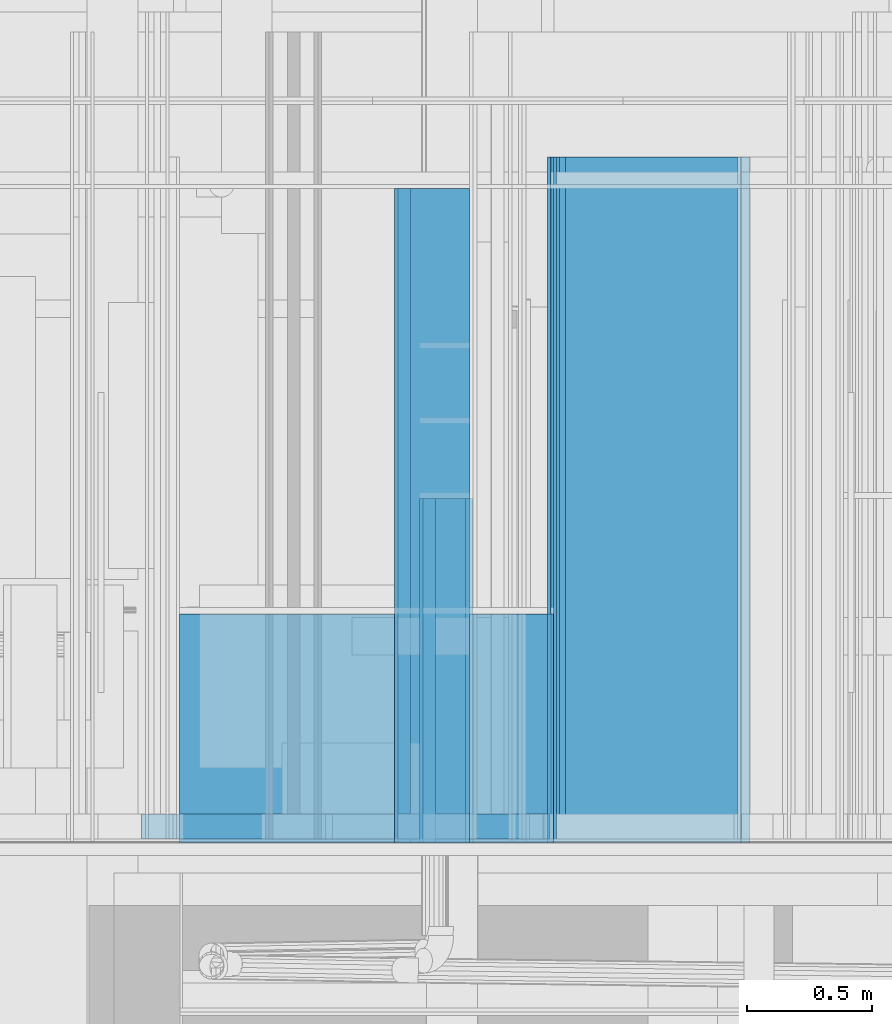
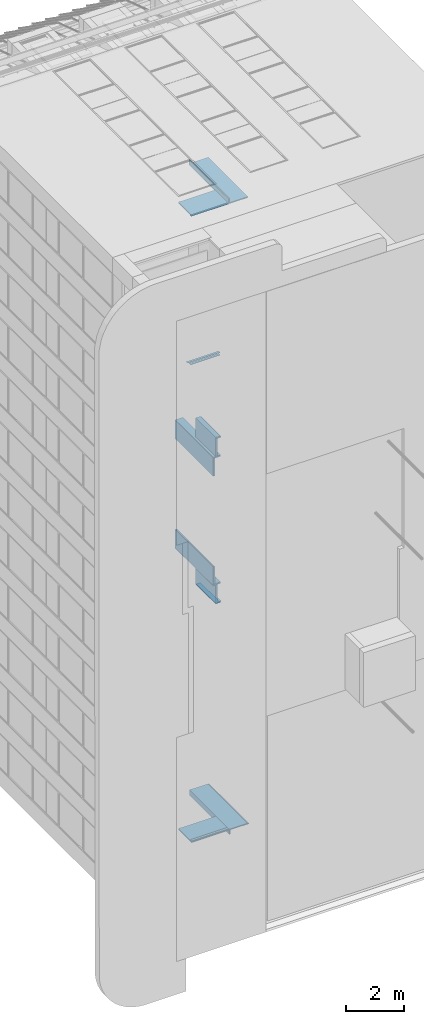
# One storey, part 41 of 583: 32 building element parts, 15 elements without a shape of their own.
"""IFC2X3 building model written with IfcOpenShell, lengths in metres."""

from ifc_helpers import new_model, entity, si_unit, converted_unit, derived_unit, money_unit, direction, frame, frame_2d, origin_with_axes, place, context, subcontext, project, spatial, polyline, rectangle, outline, extrude, material, type_object, element, aggregate, save


model = new_model("IFC2X3")

# Units and contexts
model_context = context("Model", 3, precision=1e-05, world=origin_with_axes(), true_north=direction((0.0, 1.0)))
body_context = subcontext(model_context, "Body", "Model", "MODEL_VIEW", scale=1.0)
ifc_project = project(units=[si_unit("LENGTHUNIT", "METRE"), si_unit("AREAUNIT", "SQUARE_METRE"), si_unit("VOLUMEUNIT", "CUBIC_METRE"), si_unit("ABSORBEDDOSEUNIT", "GRAY"), si_unit("AMOUNTOFSUBSTANCEUNIT", "MOLE"), si_unit("DOSEEQUIVALENTUNIT", "SIEVERT"), si_unit("ELECTRICCAPACITANCEUNIT", "FARAD"), si_unit("ELECTRICCHARGEUNIT", "COULOMB"), si_unit("ELECTRICCONDUCTANCEUNIT", "SIEMENS"), si_unit("ELECTRICCURRENTUNIT", "AMPERE"), si_unit("ELECTRICRESISTANCEUNIT", "OHM"), si_unit("ELECTRICVOLTAGEUNIT", "VOLT"), si_unit("ENERGYUNIT", "JOULE"), si_unit("FORCEUNIT", "NEWTON"), si_unit("FREQUENCYUNIT", "HERTZ"), si_unit("ILLUMINANCEUNIT", "LUX"), si_unit("INDUCTANCEUNIT", "HENRY"), si_unit("LUMINOUSFLUXUNIT", "LUMEN"), si_unit("LUMINOUSINTENSITYUNIT", "CANDELA"), si_unit("MAGNETICFLUXDENSITYUNIT", "TESLA"), si_unit("MAGNETICFLUXUNIT", "WEBER"), si_unit("MASSUNIT", "GRAM"), converted_unit("PLANEANGLEUNIT", "degree", entity("IfcReal", 0.0174532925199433), si_unit("PLANEANGLEUNIT", "RADIAN"), dimensions=[0, 0, 0, 0, 0, 0, 0]), si_unit("POWERUNIT", "WATT"), si_unit("PRESSUREUNIT", "PASCAL"), si_unit("RADIOACTIVITYUNIT", "BECQUEREL"), si_unit("SOLIDANGLEUNIT", "STERADIAN"), si_unit("THERMODYNAMICTEMPERATUREUNIT", "KELVIN"), si_unit("TIMEUNIT", "SECOND"), derived_unit("ACCELERATIONUNIT", [(si_unit("LENGTHUNIT", "METRE"), 1), (si_unit("TIMEUNIT", "SECOND"), -2)]), derived_unit("ANGULARVELOCITYUNIT", [(converted_unit("PLANEANGLEUNIT", "degree", entity("IfcReal", 0.0174532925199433), si_unit("PLANEANGLEUNIT", "RADIAN"), dimensions=[0, 0, 0, 0, 0, 0, 0]), 1), (si_unit("TIMEUNIT", "SECOND"), -1)]), derived_unit("CURVATUREUNIT", [(converted_unit("PLANEANGLEUNIT", "degree", entity("IfcReal", 0.0174532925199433), si_unit("PLANEANGLEUNIT", "RADIAN"), dimensions=[0, 0, 0, 0, 0, 0, 0]), 1), (si_unit("LENGTHUNIT", "METRE"), -1)]), derived_unit("DYNAMICVISCOSITYUNIT", [(si_unit("PRESSUREUNIT", "PASCAL"), 1), (si_unit("TIMEUNIT", "SECOND"), 1)]), derived_unit("HEATFLUXDENSITYUNIT", [(si_unit("POWERUNIT", "WATT"), 1), (si_unit("LENGTHUNIT", "METRE"), -2)]), derived_unit("HEATINGVALUEUNIT", [(si_unit("ENERGYUNIT", "JOULE"), 1), (si_unit("MASSUNIT", "GRAM"), -1)]), derived_unit("INTEGERCOUNTRATEUNIT", [(si_unit("TIMEUNIT", "SECOND"), -1)]), derived_unit("IONCONCENTRATIONUNIT", [(si_unit("MASSUNIT", "GRAM"), 1), (si_unit("VOLUMEUNIT", "CUBIC_METRE"), -1)]), derived_unit("ISOTHERMALMOISTURECAPACITYUNIT", [(si_unit("VOLUMEUNIT", "CUBIC_METRE"), 1), (si_unit("MASSUNIT", "GRAM"), -1)]), derived_unit("KINEMATICVISCOSITYUNIT", [(si_unit("AREAUNIT", "SQUARE_METRE"), 1), (si_unit("TIMEUNIT", "SECOND"), -1)]), derived_unit("LINEARFORCEUNIT", [(si_unit("FORCEUNIT", "NEWTON"), 1), (si_unit("LENGTHUNIT", "METRE"), -1)]), derived_unit("LINEARMOMENTUNIT", [(si_unit("FORCEUNIT", "NEWTON"), 1), (si_unit("LENGTHUNIT", "METRE"), -1)]), derived_unit("LINEARSTIFFNESSUNIT", [(si_unit("FORCEUNIT", "NEWTON"), 1), (si_unit("LENGTHUNIT", "METRE"), -1)]), derived_unit("LINEARVELOCITYUNIT", [(si_unit("LENGTHUNIT", "METRE"), 1), (si_unit("TIMEUNIT", "SECOND"), -1)]), derived_unit("LUMINOUSINTENSITYDISTRIBUTIONUNIT", [(si_unit("LUMINOUSINTENSITYUNIT", "CANDELA"), 1), (si_unit("LUMINOUSFLUXUNIT", "LUMEN"), -1)]), derived_unit("MASSDENSITYUNIT", [(si_unit("MASSUNIT", "GRAM"), 1), (si_unit("VOLUMEUNIT", "CUBIC_METRE"), -1)]), derived_unit("MASSFLOWRATEUNIT", [(si_unit("MASSUNIT", "GRAM"), 1), (si_unit("TIMEUNIT", "SECOND"), -1)]), derived_unit("MASSPERLENGTHUNIT", [(si_unit("MASSUNIT", "GRAM"), 1), (si_unit("LENGTHUNIT", "METRE"), -1)]), derived_unit("MODULUSOFELASTICITYUNIT", [(si_unit("FORCEUNIT", "NEWTON"), 1), (si_unit("AREAUNIT", "SQUARE_METRE"), -1)]), derived_unit("MODULUSOFLINEARSUBGRADEREACTIONUNIT", [(si_unit("FORCEUNIT", "NEWTON"), 1), (si_unit("LENGTHUNIT", "METRE"), -2)]), derived_unit("MODULUSOFROTATIONALSUBGRADEREACTIONUNIT", [(si_unit("FORCEUNIT", "NEWTON"), 1), (si_unit("LENGTHUNIT", "METRE"), 1)]), derived_unit("MODULUSOFSUBGRADEREACTIONUNIT", [(si_unit("FORCEUNIT", "NEWTON"), 1), (si_unit("VOLUMEUNIT", "CUBIC_METRE"), -1)]), derived_unit("MOISTUREDIFFUSIVITYUNIT", [(si_unit("VOLUMEUNIT", "CUBIC_METRE"), 1), (si_unit("TIMEUNIT", "SECOND"), -1)]), derived_unit("MOLECULARWEIGHTUNIT", [(si_unit("MASSUNIT", "GRAM"), 1), (si_unit("AMOUNTOFSUBSTANCEUNIT", "MOLE"), -1)]), derived_unit("PLANARFORCEUNIT", [(si_unit("FORCEUNIT", "NEWTON"), 1), (si_unit("LENGTHUNIT", "METRE"), -2)]), derived_unit("ROTATIONALFREQUENCYUNIT", [(si_unit("TIMEUNIT", "SECOND"), -1)]), derived_unit("ROTATIONALMASSUNIT", [(si_unit("MASSUNIT", "GRAM"), 1), (si_unit("LENGTHUNIT", "METRE"), 2)]), derived_unit("ROTATIONALSTIFFNESSUNIT", [(si_unit("FORCEUNIT", "NEWTON"), 1), (si_unit("LENGTHUNIT", "METRE"), 1), (converted_unit("PLANEANGLEUNIT", "degree", entity("IfcReal", 0.0174532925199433), si_unit("PLANEANGLEUNIT", "RADIAN"), dimensions=[0, 0, 0, 0, 0, 0, 0]), -1)]), derived_unit("SECTIONAREAINTEGRALUNIT", [(si_unit("LENGTHUNIT", "METRE"), 5)]), derived_unit("SECTIONMODULUSUNIT", [(si_unit("LENGTHUNIT", "METRE"), 3)]), derived_unit("SHEARMODULUSUNIT", [(si_unit("FORCEUNIT", "NEWTON"), 1), (si_unit("AREAUNIT", "SQUARE_METRE"), -1)]), derived_unit("SOUNDPOWERUNIT", [(si_unit("ENERGYUNIT", "JOULE"), 1), (si_unit("TIMEUNIT", "SECOND"), -1)]), derived_unit("SPECIFICHEATCAPACITYUNIT", [(si_unit("FORCEUNIT", "NEWTON"), 1), (si_unit("MASSUNIT", "GRAM"), -1), (si_unit("THERMODYNAMICTEMPERATUREUNIT", "KELVIN"), -1)]), derived_unit("TEMPERATUREGRADIENTUNIT", [(si_unit("THERMODYNAMICTEMPERATUREUNIT", "KELVIN"), 1), (si_unit("LENGTHUNIT", "METRE"), -1)]), derived_unit("THERMALADMITTANCEUNIT", [(si_unit("POWERUNIT", "WATT"), 1), (si_unit("AREAUNIT", "SQUARE_METRE"), -1), (si_unit("THERMODYNAMICTEMPERATUREUNIT", "KELVIN"), -1)]), derived_unit("THERMALCONDUCTANCEUNIT", [(si_unit("POWERUNIT", "WATT"), 1), (si_unit("LENGTHUNIT", "METRE"), -1), (si_unit("THERMODYNAMICTEMPERATUREUNIT", "KELVIN"), -1)]), derived_unit("THERMALEXPANSIONCOEFFICIENTUNIT", [(si_unit("THERMODYNAMICTEMPERATUREUNIT", "KELVIN"), -1)]), derived_unit("THERMALRESISTANCEUNIT", [(si_unit("AREAUNIT", "SQUARE_METRE"), 1), (si_unit("POWERUNIT", "WATT"), -1)]), derived_unit("THERMALTRANSMITTANCEUNIT", [(si_unit("POWERUNIT", "WATT"), 1), (si_unit("AREAUNIT", "SQUARE_METRE"), -1), (si_unit("THERMODYNAMICTEMPERATUREUNIT", "KELVIN"), -1)]), derived_unit("TORQUEUNIT", [(si_unit("FORCEUNIT", "NEWTON"), 1), (si_unit("LENGTHUNIT", "METRE"), 1)]), derived_unit("VAPORPERMEABILITYUNIT", [(si_unit("MASSUNIT", "GRAM"), 1), (si_unit("TIMEUNIT", "SECOND"), -1)]), derived_unit("VOLUMETRICFLOWRATEUNIT", [(si_unit("VOLUMEUNIT", "CUBIC_METRE"), 1), (si_unit("TIMEUNIT", "SECOND"), -1)]), derived_unit("WARPINGCONSTANTUNIT", [(si_unit("LENGTHUNIT", "METRE"), 6)]), derived_unit("WARPINGMOMENTUNIT", [(si_unit("FORCEUNIT", "NEWTON"), 1), (si_unit("LENGTHUNIT", "METRE"), 2)]), money_unit("GBP")], contexts=[model_context])

# Site, building, storey
site_placement = place(None, origin_with_axes())
site = spatial("IfcSite", under=ifc_project, at=site_placement, Name="Site", CompositionType="ELEMENT")
building_placement = place(site_placement, origin_with_axes())
building = spatial("IfcBuilding", under=site, at=building_placement, Name="Building01", CompositionType="ELEMENT")
storey_placement = place(building_placement, frame((0.0, 0.0, 20.78), z_axis=(0.0, 0.0, 1.0), x_axis=(1.0, 0.0, 0.0)))
storey = spatial("IfcBuildingStorey", under=building, at=storey_placement, Name="RL", CompositionType="ELEMENT", Elevation=20.78)

# Wall, building element parts
wall_type_1 = type_object("IfcWallType", Name="SHE_A-Walls_Type05c_PreWallShell_65mm", PredefinedType="NOTDEFINED")
wall_1_placement = place(storey_placement, frame((4.845, 5.15, -3.8375), z_axis=(0.0, 1.0, 0.0), x_axis=(1.0, 0.0, 0.0)))
wall_1 = element("IfcWall", 1, at=wall_1_placement, inside=storey, type_object=wall_type_1, Name="5C", ObjectType="SHE_A-Walls_Type05c_PreWallShell_65mm")
ifc_material_1 = material(Name="A_BSUK_OpeningsClearance")
placement_1 = place(wall_1_placement, origin_with_axes())
building_element_part_1 = element("IfcBuildingElementPart", 2, at=placement_1, material=ifc_material_1, Name="1", context=body_context, shape_type="SweptSolid", body=[
    extrude(outline(polyline([(0.15, 0.0), (0.0, 0.0), (-0.05, -0.05), (0.15, -0.05), (0.15, 0.0)])), origin_with_axes(), (0.0, 0.0, 1.0), 1.375),
])
ifc_material_2 = material(Name="A_BSUK_Walls_Timber")
building_element_part_2 = element("IfcBuildingElementPart", 3, at=placement_1, material=ifc_material_2, Name="2", context=body_context, shape_type="SweptSolid", body=[
    extrude(outline(polyline([(0.12, -0.05), (-0.05, -0.05), (-0.065, -0.065), (0.12, -0.065), (0.12, -0.05)])), origin_with_axes(), (0.0, 0.0, 1.0), 1.375),
])
aggregate(wall_1, [building_element_part_1, building_element_part_2])

wall_2_placement = place(storey_placement, frame((4.845, 5.15, -4.5725), z_axis=(0.0, 1.0, 0.0), x_axis=(0.0, 0.0, 1.0)))
wall_2 = element("IfcWall", 4, at=wall_2_placement, inside=storey, type_object=wall_type_1, Name="5C", ObjectType="SHE_A-Walls_Type05c_PreWallShell_65mm")
placement_2 = place(wall_2_placement, origin_with_axes())
building_element_part_3 = element("IfcBuildingElementPart", 5, at=placement_2, material=ifc_material_1, Name="1", context=body_context, shape_type="SweptSolid", body=[
    extrude(outline(polyline([(0.735, 0.0), (0.0, 0.0), (0.0, -0.05), (0.785, -0.05), (0.735, 0.0)])), origin_with_axes(), (0.0, 0.0, 1.0), 1.375),
])
building_element_part_4 = element("IfcBuildingElementPart", 6, at=placement_2, material=ifc_material_2, Name="2", context=body_context, shape_type="SweptSolid", body=[
    extrude(outline(polyline([(0.785, -0.05), (0.0, -0.05), (0.0, -0.065), (0.8, -0.065), (0.785, -0.05)])), origin_with_axes(), (0.0, 0.0, 1.0), 1.375),
])
aggregate(wall_2, [building_element_part_3, building_element_part_4])

wall_3_placement = place(storey_placement, frame((4.695, 5.15, -4.6375), z_axis=(0.0, 1.0, 0.0), x_axis=(1.0, 0.0, 0.0)))
wall_3 = element("IfcWall", 7, at=wall_3_placement, inside=storey, type_object=wall_type_1, Name="5C", ObjectType="SHE_A-Walls_Type05c_PreWallShell_65mm")
placement_3 = place(wall_3_placement, origin_with_axes())
building_element_part_5 = element("IfcBuildingElementPart", 8, at=placement_3, material=ifc_material_1, Name="1", context=body_context, shape_type="SweptSolid", body=[
    extrude(rectangle(XDim=0.285, YDim=0.05, at=frame_2d((0.1425, -0.025), x_axis=(-1.0, 0.0))), origin_with_axes(), (0.0, 0.0, 1.0), 2.615),
])
building_element_part_6 = element("IfcBuildingElementPart", 9, at=placement_3, material=ifc_material_2, Name="2", context=body_context, shape_type="SweptSolid", body=[
    extrude(rectangle(XDim=0.3, YDim=0.015, at=frame_2d((0.135, -0.0575), x_axis=(-1.0, 0.0))), origin_with_axes(), (0.0, 0.0, 1.0), 2.615),
])
aggregate(wall_3, [building_element_part_5, building_element_part_6])

wall_4_placement = place(storey_placement, frame((4.745, 5.15, -5.3725), z_axis=(0.0, 1.0, 0.0), x_axis=(0.0, 0.0, 1.0)))
wall_4 = element("IfcWall", 10, at=wall_4_placement, inside=storey, type_object=wall_type_1, Name="5C", ObjectType="SHE_A-Walls_Type05c_PreWallShell_65mm")
placement_4 = place(wall_4_placement, origin_with_axes())
building_element_part_7 = element("IfcBuildingElementPart", 11, at=placement_4, material=ifc_material_1, Name="1", context=body_context, shape_type="SweptSolid", body=[
    extrude(rectangle(XDim=0.735, YDim=0.05, at=frame_2d((0.3675, -0.025), x_axis=(-1.0, 0.0))), origin_with_axes(), (0.0, 0.0, 1.0), 2.615),
])
building_element_part_8 = element("IfcBuildingElementPart", 12, at=placement_4, material=ifc_material_2, Name="2", context=body_context, shape_type="SweptSolid", body=[
    extrude(rectangle(XDim=0.785, YDim=0.015, at=frame_2d((0.3925, -0.0575), x_axis=(-1.0, 0.0))), origin_with_axes(), (0.0, 0.0, 1.0), 2.615),
])
aggregate(wall_4, [building_element_part_7, building_element_part_8])

wall_5_placement = place(storey_placement, frame((4.845, 5.15, -10.722464), z_axis=(0.0, 1.0, 0.0), x_axis=(-1.0, 0.0, 0.0)))
wall_5 = element("IfcWall", 13, at=wall_5_placement, inside=storey, type_object=wall_type_1, Name="5C", ObjectType="SHE_A-Walls_Type05c_PreWallShell_65mm")
placement_5 = place(wall_5_placement, origin_with_axes())
building_element_part_9 = element("IfcBuildingElementPart", 14, at=placement_5, material=ifc_material_1, Name="1", context=body_context, shape_type="SweptSolid", body=[
    extrude(outline(polyline([(-0.15, -0.05), (0.05, -0.05), (0.0, 0.0), (-0.15, 0.0), (-0.15, -0.05)])), origin_with_axes(), (0.0, 0.0, 1.0), 1.375),
])
building_element_part_10 = element("IfcBuildingElementPart", 15, at=placement_5, material=ifc_material_2, Name="2", context=body_context, shape_type="SweptSolid", body=[
    extrude(outline(polyline([(-0.12, -0.065), (0.065, -0.065), (0.05, -0.05), (-0.12, -0.05), (-0.12, -0.065)])), origin_with_axes(), (0.0, 0.0, 1.0), 1.375),
])
aggregate(wall_5, [building_element_part_9, building_element_part_10])

wall_6_placement = place(storey_placement, frame((4.845, 5.15, -9.987464), z_axis=(0.0, 1.0, 0.0), x_axis=(0.0, 0.0, 1.0)))
wall_6 = element("IfcWall", 16, at=wall_6_placement, inside=storey, type_object=wall_type_1, Name="5C", ObjectType="SHE_A-Walls_Type05c_PreWallShell_65mm")
placement_6 = place(wall_6_placement, origin_with_axes())
building_element_part_11 = element("IfcBuildingElementPart", 17, at=placement_6, material=ifc_material_1, Name="1", context=body_context, shape_type="SweptSolid", body=[
    extrude(outline(polyline([(-0.785, -0.05), (0.0, -0.05), (0.0, 0.0), (-0.735, 0.0), (-0.785, -0.05)])), origin_with_axes(), (0.0, 0.0, 1.0), 1.375),
])
building_element_part_12 = element("IfcBuildingElementPart", 18, at=placement_6, material=ifc_material_2, Name="2", context=body_context, shape_type="SweptSolid", body=[
    extrude(outline(polyline([(-0.8, -0.065), (0.0, -0.065), (0.0, -0.05), (-0.785, -0.05), (-0.8, -0.065)])), origin_with_axes(), (0.0, 0.0, 1.0), 1.375),
])
aggregate(wall_6, [building_element_part_11, building_element_part_12])

wall_7_placement = place(storey_placement, frame((4.695, 5.15, -9.922464), z_axis=(0.0, 1.0, 0.0), x_axis=(-1.0, 0.0, 0.0)))
wall_7 = element("IfcWall", 19, at=wall_7_placement, inside=storey, type_object=wall_type_1, Name="5C", ObjectType="SHE_A-Walls_Type05c_PreWallShell_65mm")
placement_7 = place(wall_7_placement, origin_with_axes())
building_element_part_13 = element("IfcBuildingElementPart", 20, at=placement_7, material=ifc_material_1, Name="1", context=body_context, shape_type="SweptSolid", body=[
    extrude(rectangle(XDim=0.285, YDim=0.05, at=frame_2d((-0.1425, -0.025), x_axis=(1.0, 0.0))), origin_with_axes(), (0.0, 0.0, 1.0), 2.615),
])
building_element_part_14 = element("IfcBuildingElementPart", 21, at=placement_7, material=ifc_material_2, Name="2", context=body_context, shape_type="SweptSolid", body=[
    extrude(rectangle(XDim=0.3, YDim=0.015, at=frame_2d((-0.135, -0.0575), x_axis=(1.0, 0.0))), origin_with_axes(), (0.0, 0.0, 1.0), 2.615),
])
aggregate(wall_7, [building_element_part_13, building_element_part_14])

wall_8_placement = place(storey_placement, frame((4.745, 5.15, -9.187464), z_axis=(0.0, 1.0, 0.0), x_axis=(0.0, 0.0, 1.0)))
wall_8 = element("IfcWall", 22, at=wall_8_placement, inside=storey, type_object=wall_type_1, Name="5C", ObjectType="SHE_A-Walls_Type05c_PreWallShell_65mm")
placement_8 = place(wall_8_placement, origin_with_axes())
building_element_part_15 = element("IfcBuildingElementPart", 23, at=placement_8, material=ifc_material_1, Name="1", context=body_context, shape_type="SweptSolid", body=[
    extrude(rectangle(XDim=0.735, YDim=0.05, at=frame_2d((-0.3675, -0.025), x_axis=(1.0, 0.0))), origin_with_axes(), (0.0, 0.0, 1.0), 2.615),
])
building_element_part_16 = element("IfcBuildingElementPart", 24, at=placement_8, material=ifc_material_2, Name="2", context=body_context, shape_type="SweptSolid", body=[
    extrude(rectangle(XDim=0.785, YDim=0.015, at=frame_2d((-0.3925, -0.0575), x_axis=(1.0, 0.0))), origin_with_axes(), (0.0, 0.0, 1.0), 2.615),
])
aggregate(wall_8, [building_element_part_15, building_element_part_16])

wall_type_2 = type_object("IfcWallType", Name="SHE_A-Walls_Type05a_Partition_95mm_tall", PredefinedType="NOTDEFINED")
wall_9_placement = place(storey_placement, frame((3.72, 5.15, -0.305), z_axis=(0.0, 1.0, 0.0), x_axis=(1.0, 0.0, 0.0)))
wall_9 = element("IfcWall", 25, at=wall_9_placement, inside=storey, type_object=wall_type_2, Name="5A", ObjectType="SHE_A-Walls_Type05a_Partition_95mm_tall")
placement_9 = place(wall_9_placement, origin_with_axes())
building_element_part_17 = element("IfcBuildingElementPart", 26, at=placement_9, material=ifc_material_2, Name="2", context=body_context, shape_type="SweptSolid", body=[
    extrude(outline(polyline([(1.245, -0.035), (-0.035, -0.035), (-0.05, -0.05), (1.245, -0.05), (1.245, -0.035)])), frame((0.0, 0.0, 0.015), z_axis=(0.0, 0.0, 1.0), x_axis=(1.0, 0.0, 0.0)), (0.0, 0.0, 1.0), 0.1),
])
building_element_part_18 = element("IfcBuildingElementPart", 27, at=placement_9, material=ifc_material_2, Name="3", context=body_context, shape_type="SweptSolid", body=[
    extrude(outline(polyline([(1.245, 0.075), (0.075, 0.075), (0.06, 0.06), (1.245, 0.06), (1.245, 0.075)])), frame((0.0, 0.0, 0.015), z_axis=(0.0, 0.0, 1.0), x_axis=(1.0, 0.0, 0.0)), (0.0, 0.0, 1.0), 0.1),
])
aggregate(wall_9, [building_element_part_17, building_element_part_18])

wall_type_3 = type_object("IfcWallType", Name="SHE_A-Walls_Type06d_ExternalWallInsulation_48mm", PredefinedType="NOTDEFINED")
wall_10_placement = place(storey_placement, frame((5.29218, 5.15, 5.894), z_axis=(0.0, 1.0, 0.0), x_axis=(-1.0, 0.0, 0.0)))
wall_10 = element("IfcWall", 28, at=wall_10_placement, inside=storey, type_object=wall_type_3, Name="6D", ObjectType="SHE_A-Walls_Type06d_ExternalWallInsulation_48mm")
ifc_material_3 = material(Name="A_BSUK_Insulation")
placement_10 = place(wall_10_placement, origin_with_axes())
building_element_part_19 = element("IfcBuildingElementPart", 29, at=placement_10, material=ifc_material_3, Name="1", context=body_context, shape_type="SweptSolid", body=[
    extrude(rectangle(XDim=1.47, YDim=0.036, at=frame_2d((0.735, 0.018), x_axis=(-1.0, 0.0))), origin_with_axes(), (0.0, 0.0, 1.0), 0.915),
])
building_element_part_20 = element("IfcBuildingElementPart", 30, at=placement_10, material=ifc_material_2, Name="2", context=body_context, shape_type="SweptSolid", body=[
    extrude(rectangle(XDim=1.47, YDim=0.015, at=frame_2d((0.735, -0.0195), x_axis=(-1.0, 0.0))), frame((0.0, 0.0, 0.015), z_axis=(0.0, 0.0, 1.0), x_axis=(1.0, 0.0, 0.0)), (0.0, 0.0, 1.0), 0.1),
])
ifc_material_4 = material(Name="A_BSUK_WallInternal_Finishes_Plasterboard")
building_element_part_21 = element("IfcBuildingElementPart", 31, at=placement_10, material=ifc_material_4, Name="3", context=body_context, shape_type="SweptSolid", body=[
    extrude(rectangle(XDim=1.47, YDim=0.013, at=frame_2d((0.735, -0.0055), x_axis=(-1.0, 0.0))), origin_with_axes(), (0.0, 0.0, 1.0), 0.915),
])
aggregate(wall_10, [building_element_part_19, building_element_part_20, building_element_part_21])

wall_11_placement = place(storey_placement, frame((5.34018, 5.15, 5.93), z_axis=(0.0, 1.0, 0.0), x_axis=(0.0, 0.0, 1.0)))
wall_11 = element("IfcWall", 32, at=wall_11_placement, inside=storey, type_object=wall_type_3, Name="6D", ObjectType="SHE_A-Walls_Type06d_ExternalWallInsulation_48mm")
placement_11 = place(wall_11_placement, origin_with_axes())
building_element_part_22 = element("IfcBuildingElementPart", 33, at=placement_11, material=ifc_material_3, Name="1", context=body_context, shape_type="SweptSolid", body=[
    extrude(rectangle(XDim=0.036, YDim=0.17, at=frame_2d((0.085, -0.018), x_axis=(0.0, -1.0))), origin_with_axes(), (0.0, 0.0, 1.0), 2.74),
])
building_element_part_23 = element("IfcBuildingElementPart", 34, at=placement_11, material=ifc_material_4, Name="3", context=body_context, shape_type="SweptSolid", body=[
    extrude(rectangle(XDim=0.013, YDim=0.205, at=frame_2d((0.0675, -0.0415), x_axis=(0.0, -1.0))), origin_with_axes(), (0.0, 0.0, 1.0), 2.74),
])
aggregate(wall_11, [building_element_part_22, building_element_part_23])

wall_12_placement = place(storey_placement, frame((5.30418, 5.15, 5.93), z_axis=(0.0, 1.0, 0.0), x_axis=(1.0, 0.0, 0.0)))
wall_12 = element("IfcWall", 35, at=wall_12_placement, inside=storey, type_object=wall_type_3, Name="6D", ObjectType="SHE_A-Walls_Type06d_ExternalWallInsulation_48mm")
placement_12 = place(wall_12_placement, origin_with_axes())
building_element_part_24 = element("IfcBuildingElementPart", 36, at=placement_12, material=ifc_material_3, Name="1", context=body_context, shape_type="SweptSolid", body=[
    extrude(rectangle(XDim=0.75982, YDim=0.036, at=frame_2d((0.37991, 0.018), x_axis=(-1.0, 0.0))), origin_with_axes(), (0.0, 0.0, 1.0), 2.74),
])
building_element_part_25 = element("IfcBuildingElementPart", 37, at=placement_12, material=ifc_material_4, Name="3", context=body_context, shape_type="SweptSolid", body=[
    extrude(rectangle(XDim=0.75982, YDim=0.013, at=frame_2d((0.36791, 0.0415), x_axis=(-1.0, 0.0))), origin_with_axes(), (0.0, 0.0, 1.0), 2.74),
])
aggregate(wall_12, [building_element_part_24, building_element_part_25])

wall_13_placement = place(storey_placement, frame((6.1, 5.15, -20.51), z_axis=(0.0, 1.0, 0.0), x_axis=(-1.0, 0.0, 0.0)))
wall_13 = element("IfcWall", 38, at=wall_13_placement, inside=storey, type_object=wall_type_3, Name="6D", ObjectType="SHE_A-Walls_Type06d_ExternalWallInsulation_48mm")
placement_13 = place(wall_13_placement, origin_with_axes())
building_element_part_26 = element("IfcBuildingElementPart", 39, at=placement_13, material=ifc_material_3, Name="1", context=body_context, shape_type="SweptSolid", body=[
    extrude(rectangle(XDim=0.773, YDim=0.036, at=frame_2d((0.3865, 0.018), x_axis=(-1.0, 0.0))), origin_with_axes(), (0.0, 0.0, 1.0), 2.74),
])
building_element_part_27 = element("IfcBuildingElementPart", 40, at=placement_13, material=ifc_material_4, Name="3", context=body_context, shape_type="SweptSolid", body=[
    extrude(outline(polyline([(0.785, 0.048), (0.048, 0.048), (0.048, 0.035), (0.772, 0.035), (0.785, 0.048)])), origin_with_axes(), (0.0, 0.0, 1.0), 2.74),
])
aggregate(wall_13, [building_element_part_26, building_element_part_27])

wall_14_placement = place(storey_placement, frame((5.363, 5.15, -20.51), z_axis=(0.0, 1.0, 0.0), x_axis=(0.0, 0.0, -1.0)))
wall_14 = element("IfcWall", 41, at=wall_14_placement, inside=storey, type_object=wall_type_3, Name="6D", ObjectType="SHE_A-Walls_Type06d_ExternalWallInsulation_48mm")
placement_14 = place(wall_14_placement, origin_with_axes())
building_element_part_28 = element("IfcBuildingElementPart", 42, at=placement_14, material=ifc_material_3, Name="1", context=body_context, shape_type="SweptSolid", body=[
    extrude(rectangle(XDim=0.036, YDim=0.17, at=frame_2d((0.085, 0.018), x_axis=(0.0, -1.0))), origin_with_axes(), (0.0, 0.0, 1.0), 2.74),
])
building_element_part_29 = element("IfcBuildingElementPart", 43, at=placement_14, material=ifc_material_4, Name="3", context=body_context, shape_type="SweptSolid", body=[
    extrude(outline(polyline([(-0.048, 0.048), (-0.035, 0.035), (0.17, 0.035), (0.17, 0.048), (-0.048, 0.048)])), origin_with_axes(), (0.0, 0.0, 1.0), 2.74),
])
aggregate(wall_14, [building_element_part_28, building_element_part_29])

wall_15_placement = place(storey_placement, frame((5.315, 5.15, -20.474), z_axis=(0.0, 1.0, 0.0), x_axis=(-1.0, 0.0, 0.0)))
wall_15 = element("IfcWall", 44, at=wall_15_placement, inside=storey, type_object=wall_type_3, Name="6D", ObjectType="SHE_A-Walls_Type06d_ExternalWallInsulation_48mm")
placement_15 = place(wall_15_placement, origin_with_axes())
building_element_part_30 = element("IfcBuildingElementPart", 45, at=placement_15, material=ifc_material_3, Name="1", context=body_context, shape_type="SweptSolid", body=[
    extrude(rectangle(XDim=1.49282, YDim=0.036, at=frame_2d((0.74641, -0.018), x_axis=(-1.0, 0.0))), origin_with_axes(), (0.0, 0.0, 1.0), 0.915),
])
building_element_part_31 = element("IfcBuildingElementPart", 46, at=placement_15, material=ifc_material_2, Name="2", context=body_context, shape_type="SweptSolid", body=[
    extrude(rectangle(XDim=1.46282, YDim=0.015, at=frame_2d((0.74641, 0.0195), x_axis=(-1.0, 0.0))), frame((0.0, 0.0, 0.015), z_axis=(0.0, 0.0, 1.0), x_axis=(1.0, 0.0, 0.0)), (0.0, 0.0, 1.0), 0.1),
])
building_element_part_32 = element("IfcBuildingElementPart", 47, at=placement_15, material=ifc_material_4, Name="3", context=body_context, shape_type="SweptSolid", body=[
    extrude(rectangle(XDim=1.49282, YDim=0.013, at=frame_2d((0.74641, 0.0055), x_axis=(-1.0, 0.0))), origin_with_axes(), (0.0, 0.0, 1.0), 0.915),
])
aggregate(wall_15, [building_element_part_30, building_element_part_31, building_element_part_32])

save(model, "model.ifc")
